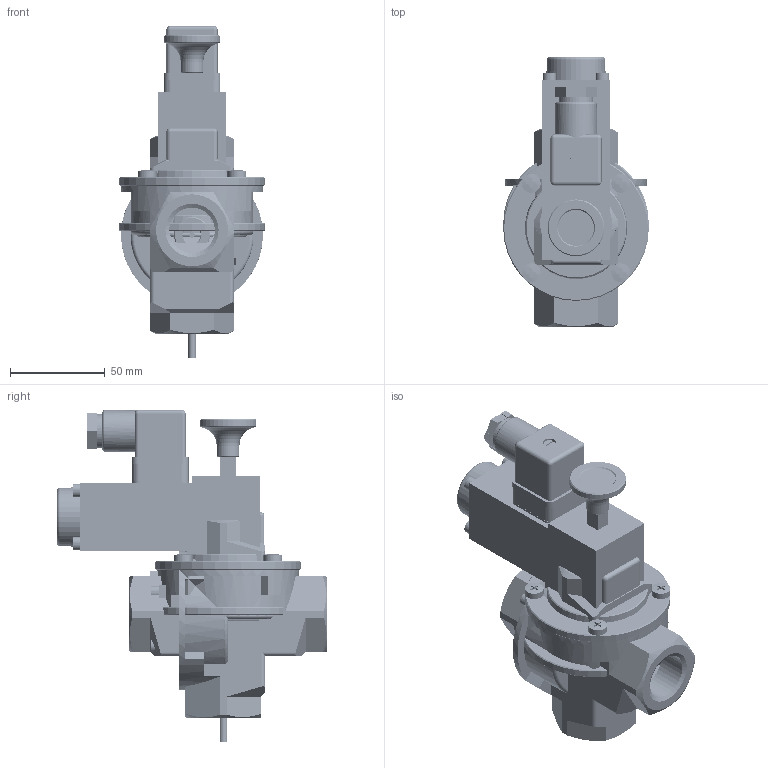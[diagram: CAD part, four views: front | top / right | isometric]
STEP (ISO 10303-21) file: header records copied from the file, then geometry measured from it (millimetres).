
FILE_DESCRIPTION( ( 'Unknown' ), '1' );
FILE_NAME( 'D:/Wyroby/Widoki gabarytowe/Zawory ZB/ZB_20/ZB_20.stp', 'Unknown', ( 'Unknown' ), ( 'Unknown' ), 'XStep 1.0', 'Unknown', ' ' );
FILE_SCHEMA( ( 'CONFIG_CONTROL_DESIGN' ) );
Length unit declared in the file: millimetre
Products named in the file (68): Wb_096_01_02; Z³¹cze_C18211G21; Wb_096_01_00; Wa_209_01_00; Wa_209_01_01; ElektromagnesZB_z_wtyczk¹; Wa_007_01_03; Gniazdo_wtykowe_B282; Assem1; cokó³_gniazda_wtykowego_B282; Wk³adka; Blaszka_uziemienia; Blaszka_fazy; Uszczelka_coko³u; Obudowa; Kostka; Uszczelka; Wkrêt_M3x30; Œruba_d³awika; Uszczelka_d³awika; Wa_209_01_01bez_ko³ka; Ko³ek 3x40; Wa_007_01_03_001; Wa_007_01_03_002; Wa_007_01_03_003zaci從i黎a; Wb_096_01_02bez_gniazda; Wb_001_01_01_002gotowe; Wa_209_02_00_008; Wa_209_02_00_007; Wa_209_01_00_001; Wa_209_01_00_002; Wa_209_01_00_003; Wa_209_01_00_004; Wa_209_01_00_005; W-039M3x9; Wa_209_01_00_007; ImbusM4x65; Wa_209_01_00_006彡i從i黎a7; Wa_209_01_00_011; Uzwojenie_Wa_209_01_02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
Bounding box: 77 x 143.1 x 175.5 mm (x, y, z)
Volume: 1163787.1 mm3; surface area: 748706.1 mm2
Topology: 230 solids, 230 shells, 4300 faces, 10330 edges, 6753 vertices
Faces by surface type: plane 2567, cylinder 1186, cone 364, torus 135, sphere 38, bspline 10
Full cylindrical faces by diameter (mm): 1.6 x5, 2.459 x13, 3 x28, 3.2 x16, 3.242 x12, 3.5 x20, 4 x20, 4.134 x16, 4.5 x26, 4.917 x3, 5 x26, 5.2 x16, 5.5 x30, 5.9 x3, 6 x19, 6.1 x3, 6.5 x10, 6.647 x3, 7 x26, 7.5 x5, 8 x27, 8.4 x4, 9 x8, 10 x20, 10.917 x3, 11 x5, 12 x6, 12.5 x5, 12.8 x3, 13 x12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
Entity records: 34857 total; most frequent: CARTESIAN_POINT 8739, DIRECTION 4958, ORIENTED_EDGE 4088, EDGE_CURVE 2044, AXIS2_PLACEMENT_3D 1865, EDGE_LOOP 1569, VERTEX_POINT 1516, FACE_OUTER_BOUND 1271
